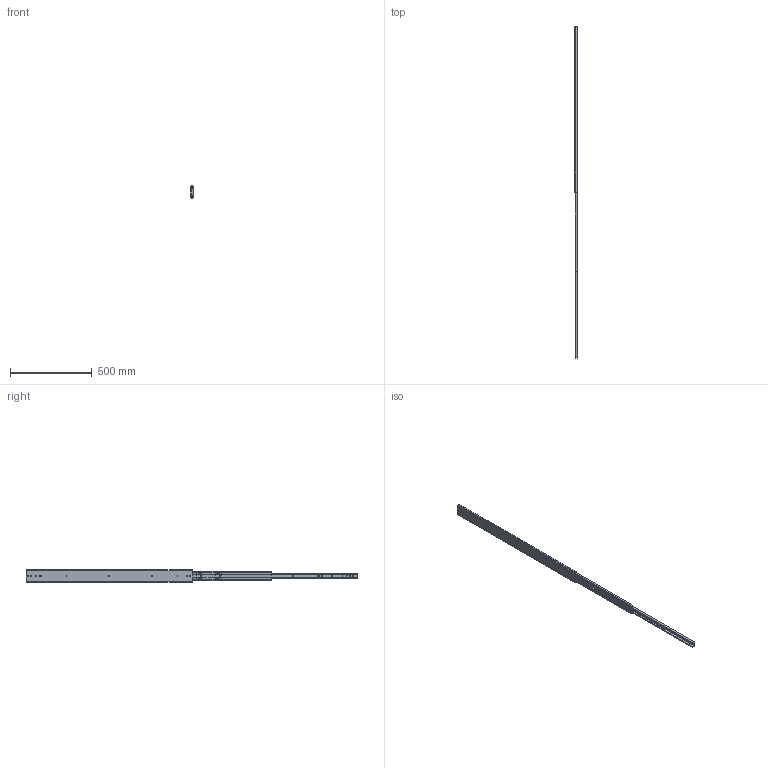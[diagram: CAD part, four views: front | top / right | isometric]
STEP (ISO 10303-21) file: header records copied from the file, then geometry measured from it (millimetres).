
FILE_DESCRIPTION(/* description */ ('Unknown'),/* implementation_level */ '2;1');
FILE_NAME(/* name */ '76J01-40 open',/* time_stamp */ '2024-07-26T16:23:33+08:00',/* author */ ('Unknown'),/* organization */ ('Unknown'),/* preprocessor_version */ 'ST-DEVELOPER v18.104',/* originating_system */ 'Solid Edge',/* authorisation */ 'Unknown');
FILE_SCHEMA (('AUTOMOTIVE_DESIGN {1 0 10303 214 3 1 1}'));
Length unit declared in the file: millimetre
Products named in the file (4): 76J01-40 open; 76J01 40 吋中_0; 76J01 40 inch 內_0; 76J01 40 吋
Assembly tree (3 placements, depth 2):
  76J01-40 open
    76J01 40 吋中_0
    76J01 40 inch 內_0
    76J01 40 吋
Bounding box: 19.3 x 2031.3 x 76.76 mm (x, y, z)
Volume: 799896.7 mm3; surface area: 497860.2 mm2
Topology: 3 solids, 3 shells, 193 faces, 595 edges, 402 vertices
Faces by surface type: plane 104, cylinder 89
Full cylindrical faces by diameter (mm): 5.2 x14, 7.1 x2
Entity records: 7062 total; most frequent: CARTESIAN_POINT 1149, DIRECTION 1135, ORIENTED_EDGE 1126, EDGE_CURVE 563, VERTEX_POINT 386, LINE 383, VECTOR 383, AXIS2_PLACEMENT_3D 376
